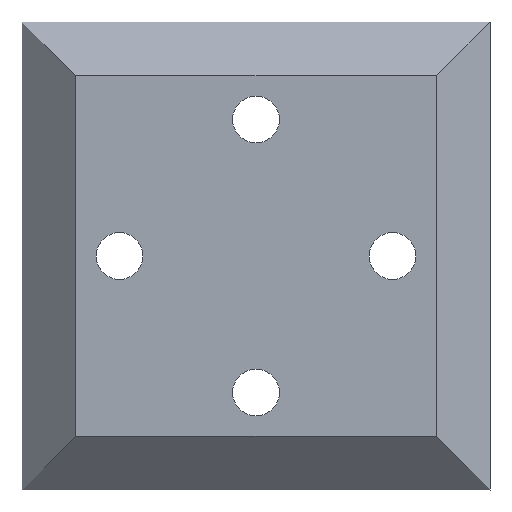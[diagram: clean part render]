
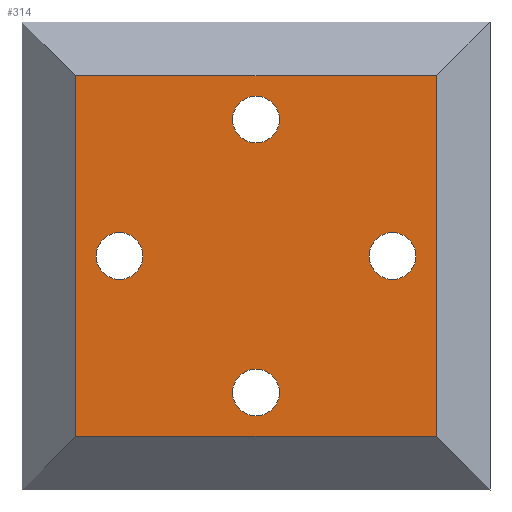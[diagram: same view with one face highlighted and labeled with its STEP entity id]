
A CAD part, front view. The second image highlights one B-rep face of the part: STEP entity #314.
In plain terms, the highlighted planar face has unit normal (0, -1, 0) as drawn and (0, 1, 0) by its records, which use the part's own axes.
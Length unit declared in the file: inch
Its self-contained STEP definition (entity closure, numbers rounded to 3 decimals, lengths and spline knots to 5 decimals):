
#7 = DIRECTION ( 'NONE',  ( 0., 0., -1. ) ) ;
#10 = EDGE_CURVE ( 'NONE', #313, #129, #182, .T. ) ;
#17 = LINE ( 'NONE', #390, #311 ) ;
#22 = CARTESIAN_POINT ( 'NONE',  ( 9.25, 0.475, -1.05 ) ) ;
#25 = EDGE_CURVE ( 'NONE', #699, #443, #244, .T. ) ;
#30 = CARTESIAN_POINT ( 'NONE',  ( 2.25, 0.475, -9.25 ) ) ;
#75 = EDGE_CURVE ( 'NONE', #443, #699, #195, .T. ) ;
#103 = DIRECTION ( 'NONE',  ( 0., 0., -1. ) ) ;
#112 = DIRECTION ( 'NONE',  ( 0., 0., 1. ) ) ;
#124 = DIRECTION ( 'NONE',  ( 1., 0., 0. ) ) ;
#126 = CIRCLE ( 'NONE', #163, 1.2 ) ;
#129 = VERTEX_POINT ( 'NONE', #426 ) ;
#130 = DIRECTION ( 'NONE',  ( 0., 0., 1. ) ) ;
#133 = AXIS2_PLACEMENT_3D ( 'NONE', #30, #135, #393 ) ;
#135 = DIRECTION ( 'NONE',  ( 0., 1., 0. ) ) ;
#143 = CARTESIAN_POINT ( 'NONE',  ( 18.5, 0.475, 0. ) ) ;
#163 = AXIS2_PLACEMENT_3D ( 'NONE', #221, #370, #600 ) ;
#174 = EDGE_CURVE ( 'NONE', #253, #471, #405, .T. ) ;
#182 = CIRCLE ( 'NONE', #491, 1.2 ) ;
#192 = CARTESIAN_POINT ( 'NONE',  ( 0., 0.475, 0. ) ) ;
#195 = CIRCLE ( 'NONE', #298, 1.2 ) ;
#217 = CARTESIAN_POINT ( 'NONE',  ( 18.5, 0.475, -18.5 ) ) ;
#218 = ORIENTED_EDGE ( 'NONE', *, *, #583, .T. ) ;
#219 = FACE_BOUND ( 'NONE', #404, .T. ) ;
#221 = CARTESIAN_POINT ( 'NONE',  ( 9.25, 0.475, -2.25 ) ) ;
#228 = FACE_BOUND ( 'NONE', #564, .T. ) ;
#229 = EDGE_CURVE ( 'NONE', #681, #628, #126, .T. ) ;
#241 = AXIS2_PLACEMENT_3D ( 'NONE', #452, #338, #274 ) ;
#244 = CIRCLE ( 'NONE', #133, 1.2 ) ;
#253 = VERTEX_POINT ( 'NONE', #412 ) ;
#257 = EDGE_LOOP ( 'NONE', ( #272, #277 ) ) ;
#261 = ORIENTED_EDGE ( 'NONE', *, *, #666, .F. ) ;
#272 = ORIENTED_EDGE ( 'NONE', *, *, #691, .F. ) ;
#274 = DIRECTION ( 'NONE',  ( 0., 0., -1. ) ) ;
#275 = CIRCLE ( 'NONE', #321, 1.2 ) ;
#277 = ORIENTED_EDGE ( 'NONE', *, *, #174, .F. ) ;
#280 = VERTEX_POINT ( 'NONE', #728 ) ;
#290 = ORIENTED_EDGE ( 'NONE', *, *, #75, .F. ) ;
#292 = EDGE_LOOP ( 'NONE', ( #738, #218, #446, #356 ) ) ;
#293 = DIRECTION ( 'NONE',  ( 0., 0., 1. ) ) ;
#294 = CARTESIAN_POINT ( 'NONE',  ( 18.5, 0.475, 0. ) ) ;
#298 = AXIS2_PLACEMENT_3D ( 'NONE', #683, #309, #7 ) ;
#307 = DIRECTION ( 'NONE',  ( 0., 1., 0. ) ) ;
#308 = CARTESIAN_POINT ( 'NONE',  ( 16.25, 0.475, -8.05 ) ) ;
#309 = DIRECTION ( 'NONE',  ( 0., 1., 0. ) ) ;
#311 = VECTOR ( 'NONE', #130, 39.37008 ) ;
#312 = CARTESIAN_POINT ( 'NONE',  ( 0., 0.475, 0. ) ) ;
#313 = VERTEX_POINT ( 'NONE', #599 ) ;
#314 = ADVANCED_FACE ( 'NONE', ( #219, #228, #409, #354, #656 ), #536, .F. ) ;
#321 = AXIS2_PLACEMENT_3D ( 'NONE', #746, #434, #112 ) ;
#324 = VERTEX_POINT ( 'NONE', #217 ) ;
#325 = EDGE_CURVE ( 'NONE', #755, #324, #775, .T. ) ;
#338 = DIRECTION ( 'NONE',  ( 0., 1., 0. ) ) ;
#339 = CARTESIAN_POINT ( 'NONE',  ( 2.25, 0.475, -8.05 ) ) ;
#352 = CIRCLE ( 'NONE', #558, 1.2 ) ;
#354 = FACE_BOUND ( 'NONE', #776, .T. ) ;
#356 = ORIENTED_EDGE ( 'NONE', *, *, #700, .T. ) ;
#370 = DIRECTION ( 'NONE',  ( 0., 1., 0. ) ) ;
#377 = ORIENTED_EDGE ( 'NONE', *, *, #229, .F. ) ;
#390 = CARTESIAN_POINT ( 'NONE',  ( 0., 0.475, 0. ) ) ;
#393 = DIRECTION ( 'NONE',  ( 0., 0., -1. ) ) ;
#403 = DIRECTION ( 'NONE',  ( 0., 1., 0. ) ) ;
#404 = EDGE_LOOP ( 'NONE', ( #496, #463 ) ) ;
#405 = CIRCLE ( 'NONE', #707, 1.2 ) ;
#409 = FACE_BOUND ( 'NONE', #257, .T. ) ;
#412 = CARTESIAN_POINT ( 'NONE',  ( 16.25, 0.475, -10.45 ) ) ;
#425 = VECTOR ( 'NONE', #701, 39.37008 ) ;
#426 = CARTESIAN_POINT ( 'NONE',  ( 9.25, 0.475, -17.45 ) ) ;
#434 = DIRECTION ( 'NONE',  ( 0., 1., 0. ) ) ;
#443 = VERTEX_POINT ( 'NONE', #676 ) ;
#446 = ORIENTED_EDGE ( 'NONE', *, *, #325, .T. ) ;
#450 = CARTESIAN_POINT ( 'NONE',  ( 9.25, 0.475, -16.25 ) ) ;
#452 = CARTESIAN_POINT ( 'NONE',  ( 9.25, 0.475, -2.25 ) ) ;
#455 = DIRECTION ( 'NONE',  ( 0., 1., 0. ) ) ;
#458 = CARTESIAN_POINT ( 'NONE',  ( 9.25, 0.475, -3.45 ) ) ;
#463 = ORIENTED_EDGE ( 'NONE', *, *, #525, .F. ) ;
#470 = DIRECTION ( 'NONE',  ( 0., -1., 0. ) ) ;
#471 = VERTEX_POINT ( 'NONE', #308 ) ;
#488 = CIRCLE ( 'NONE', #241, 1.2 ) ;
#491 = AXIS2_PLACEMENT_3D ( 'NONE', #450, #455, #528 ) ;
#496 = ORIENTED_EDGE ( 'NONE', *, *, #10, .F. ) ;
#511 = ORIENTED_EDGE ( 'NONE', *, *, #25, .F. ) ;
#525 = EDGE_CURVE ( 'NONE', #129, #313, #275, .T. ) ;
#528 = DIRECTION ( 'NONE',  ( 0., 0., 1. ) ) ;
#536 = PLANE ( 'NONE',  #604 ) ;
#547 = LINE ( 'NONE', #192, #760 ) ;
#555 = VERTEX_POINT ( 'NONE', #312 ) ;
#558 = AXIS2_PLACEMENT_3D ( 'NONE', #640, #403, #696 ) ;
#564 = EDGE_LOOP ( 'NONE', ( #261, #377 ) ) ;
#583 = EDGE_CURVE ( 'NONE', #555, #755, #547, .T. ) ;
#587 = DIRECTION ( 'NONE',  ( 0., 0., -1. ) ) ;
#595 = CARTESIAN_POINT ( 'NONE',  ( 16.25, 0.475, -9.25 ) ) ;
#599 = CARTESIAN_POINT ( 'NONE',  ( 9.25, 0.475, -15.05 ) ) ;
#600 = DIRECTION ( 'NONE',  ( 0., 0., -1. ) ) ;
#604 = AXIS2_PLACEMENT_3D ( 'NONE', #779, #470, #587 ) ;
#628 = VERTEX_POINT ( 'NONE', #22 ) ;
#640 = CARTESIAN_POINT ( 'NONE',  ( 16.25, 0.475, -9.25 ) ) ;
#647 = CARTESIAN_POINT ( 'NONE',  ( 0., 0.475, -18.5 ) ) ;
#656 = FACE_OUTER_BOUND ( 'NONE', #292, .T. ) ;
#666 = EDGE_CURVE ( 'NONE', #628, #681, #488, .T. ) ;
#676 = CARTESIAN_POINT ( 'NONE',  ( 2.25, 0.475, -10.45 ) ) ;
#681 = VERTEX_POINT ( 'NONE', #458 ) ;
#683 = CARTESIAN_POINT ( 'NONE',  ( 2.25, 0.475, -9.25 ) ) ;
#686 = LINE ( 'NONE', #647, #425 ) ;
#691 = EDGE_CURVE ( 'NONE', #471, #253, #352, .T. ) ;
#696 = DIRECTION ( 'NONE',  ( 0., 0., 1. ) ) ;
#699 = VERTEX_POINT ( 'NONE', #339 ) ;
#700 = EDGE_CURVE ( 'NONE', #324, #280, #686, .T. ) ;
#701 = DIRECTION ( 'NONE',  ( -1., 0., 0. ) ) ;
#707 = AXIS2_PLACEMENT_3D ( 'NONE', #595, #307, #293 ) ;
#709 = VECTOR ( 'NONE', #103, 39.37008 ) ;
#728 = CARTESIAN_POINT ( 'NONE',  ( 0., 0.475, -18.5 ) ) ;
#738 = ORIENTED_EDGE ( 'NONE', *, *, #743, .T. ) ;
#743 = EDGE_CURVE ( 'NONE', #280, #555, #17, .T. ) ;
#746 = CARTESIAN_POINT ( 'NONE',  ( 9.25, 0.475, -16.25 ) ) ;
#755 = VERTEX_POINT ( 'NONE', #143 ) ;
#760 = VECTOR ( 'NONE', #124, 39.37008 ) ;
#775 = LINE ( 'NONE', #294, #709 ) ;
#776 = EDGE_LOOP ( 'NONE', ( #511, #290 ) ) ;
#779 = CARTESIAN_POINT ( 'NONE',  ( 0., 0.475, 0. ) ) ;
